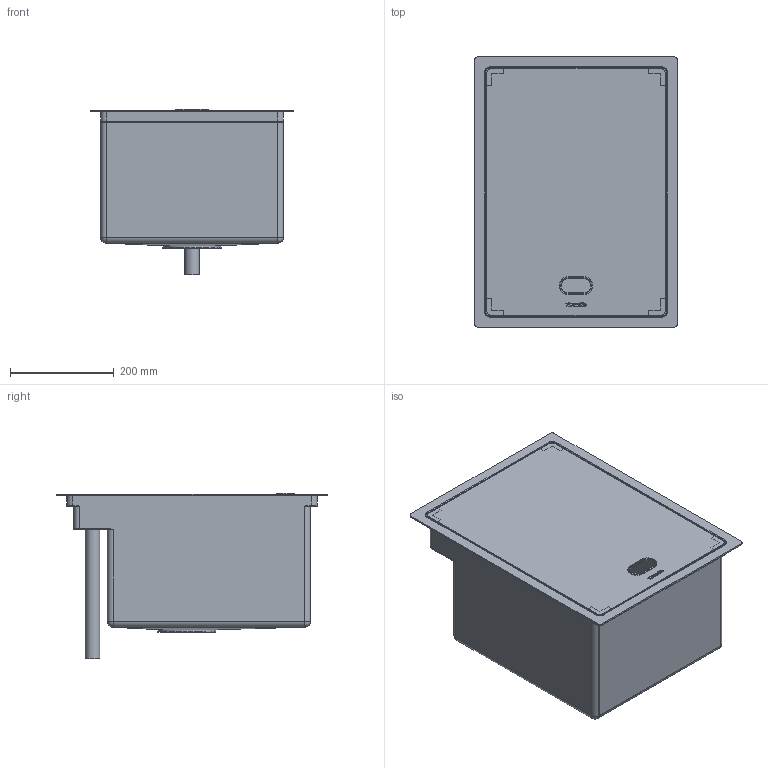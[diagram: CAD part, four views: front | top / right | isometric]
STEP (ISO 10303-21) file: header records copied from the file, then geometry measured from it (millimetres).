
FILE_DESCRIPTION(/* description */ ('Sink with hidden lifting faucet and lid 490x520mm'),/* implementation_level */ '2;1');
FILE_NAME(/* name */ 'SA3-MCt.1.step',/* time_stamp */ '2026-02-25T16:03:25+01:00',/* author */ (''),/* organization */ (''),/* preprocessor_version */ 'ST-DEVELOPER v20.1',/* originating_system */ 'Autodesk Translation Framework v14.24.0.0',/* authorisation */ '');
FILE_SCHEMA (('AUTOMOTIVE_DESIGN { 1 0 10303 214 3 1 1 }'));
Length unit declared in the file: millimetre
Products named in the file (10): SA3-MCt.1; SA3-DM.1; SB1-D-3548-001; SB1-D-3548-002; SB1-D-3548-003; SA3-MC.1; SA3-t25.1; SB1-w-A25-1; SB1-w-A25-2; SB1-w-L
Assembly tree (12 placements, depth 3):
  SA3-MCt.1
    SA3-DM.1
      SB1-D-3548-001
      SB1-D-3548-002
      SB1-D-3548-003  x4
    SA3-MC.1
    SA3-t25.1
      SB1-w-A25-1
      SB1-w-A25-2
      SB1-w-L
Bounding box: 390 x 520 x 319 mm (x, y, z)
Volume: 1286190.5 mm3; surface area: 1662154.9 mm2
Topology: 14 solids, 14 shells, 613 faces, 1511 edges, 954 vertices
Faces by surface type: plane 282, bspline 164, cylinder 132, torus 20, sphere 9, cone 6
Full cylindrical faces by diameter (mm): 5 x1, 7 x4, 16 x1, 20 x1, 28 x2, 35 x2, 50 x1, 55 x2, 90 x1, 110 x1, 112 x1
Entity records: 19951 total; most frequent: CARTESIAN_POINT 6882, ORIENTED_EDGE 2864, DIRECTION 2314, EDGE_CURVE 1432, VERTEX_POINT 906, LINE 816, VECTOR 816, AXIS2_PLACEMENT_3D 749
